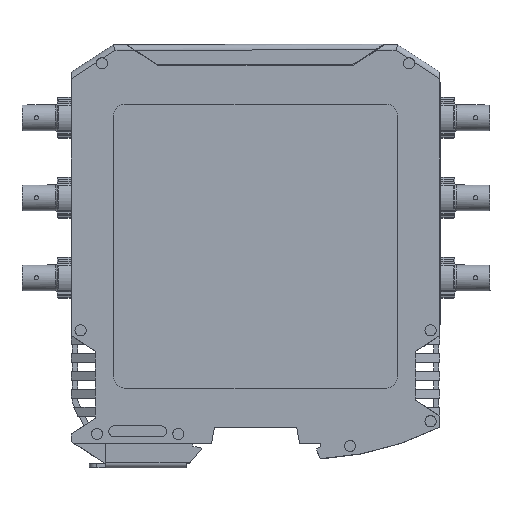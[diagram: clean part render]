
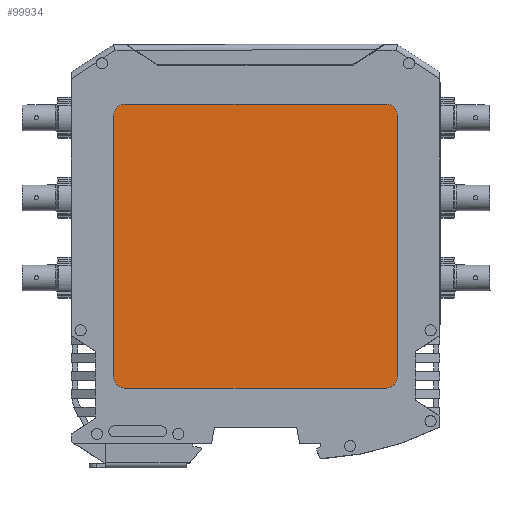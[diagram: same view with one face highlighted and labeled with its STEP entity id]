
A CAD part, top view. The second image highlights one B-rep face of the part: STEP entity #99934.
In plain terms, the highlighted planar face has unit normal (0, 0, 1).
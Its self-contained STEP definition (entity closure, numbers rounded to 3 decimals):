
#3363 = AXIS2_PLACEMENT_3D ( 'NONE', #114892, #7422, #132922 ) ;
#6755 = DIRECTION ( 'NONE',  ( -1., 0., 0. ) ) ;
#7422 = DIRECTION ( 'NONE',  ( 0., 0., 1. ) ) ;
#11096 = AXIS2_PLACEMENT_3D ( 'NONE', #84467, #209855, #102453 ) ;
#13148 = VERTEX_POINT ( 'NONE', #220551 ) ;
#14092 = FACE_OUTER_BOUND ( 'NONE', #188374, .T. ) ;
#17000 = CIRCLE ( 'NONE', #156917, 3. ) ;
#26760 = CIRCLE ( 'NONE', #166505, 3. ) ;
#32117 = CARTESIAN_POINT ( 'NONE',  ( -38.1, 95.521, 14.1 ) ) ;
#34280 = VECTOR ( 'NONE', #86154, 1000. ) ;
#36644 = LINE ( 'NONE', #61894, #84329 ) ;
#37296 = DIRECTION ( 'NONE',  ( 0., 0., -1. ) ) ;
#37347 = ORIENTED_EDGE ( 'NONE', *, *, #145856, .T. ) ;
#42806 = PLANE ( 'NONE',  #3363 ) ;
#45331 = CARTESIAN_POINT ( 'NONE',  ( -38.1, 25.321, 14.1 ) ) ;
#53206 = EDGE_CURVE ( 'NONE', #148381, #74301, #36644, .T. ) ;
#55869 = CARTESIAN_POINT ( 'NONE',  ( 38.1, 95.521, 14.1 ) ) ;
#61894 = CARTESIAN_POINT ( 'NONE',  ( -35.1, 22.321, 14.1 ) ) ;
#66616 = DIRECTION ( 'NONE',  ( 0., 0., -1. ) ) ;
#71998 = EDGE_CURVE ( 'NONE', #13148, #74301, #191488, .T. ) ;
#73001 = VERTEX_POINT ( 'NONE', #163774 ) ;
#74301 = VERTEX_POINT ( 'NONE', #200109 ) ;
#74642 = CARTESIAN_POINT ( 'NONE',  ( -35.1, 25.321, 14.1 ) ) ;
#81965 = LINE ( 'NONE', #32117, #34280 ) ;
#82093 = ORIENTED_EDGE ( 'NONE', *, *, #189148, .F. ) ;
#84329 = VECTOR ( 'NONE', #169152, 1000. ) ;
#84467 = CARTESIAN_POINT ( 'NONE',  ( 35.1, 25.321, 14.1 ) ) ;
#86154 = DIRECTION ( 'NONE',  ( 0., -1., 0. ) ) ;
#87935 = VERTEX_POINT ( 'NONE', #155053 ) ;
#92637 = DIRECTION ( 'NONE',  ( -1., 0., 0. ) ) ;
#93683 = CARTESIAN_POINT ( 'NONE',  ( 38.1, 95.521, 14.1 ) ) ;
#93741 = EDGE_CURVE ( 'NONE', #215627, #183195, #17000, .T. ) ;
#98255 = VERTEX_POINT ( 'NONE', #45331 ) ;
#99934 = ADVANCED_FACE ( 'NONE', ( #14092 ), #42806, .T. ) ;
#101561 = ORIENTED_EDGE ( 'NONE', *, *, #124099, .T. ) ;
#101942 = LINE ( 'NONE', #149484, #144029 ) ;
#102453 = DIRECTION ( 'NONE',  ( -1., 0., 0. ) ) ;
#112394 = EDGE_CURVE ( 'NONE', #148381, #98255, #26760, .T. ) ;
#114892 = CARTESIAN_POINT ( 'NONE',  ( -35.1, 95.521, 14.1 ) ) ;
#117251 = ORIENTED_EDGE ( 'NONE', *, *, #53206, .T. ) ;
#124099 = EDGE_CURVE ( 'NONE', #13148, #183195, #192059, .T. ) ;
#125354 = ORIENTED_EDGE ( 'NONE', *, *, #229352, .T. ) ;
#127967 = ORIENTED_EDGE ( 'NONE', *, *, #112394, .F. ) ;
#132922 = DIRECTION ( 'NONE',  ( 1., 0., 0. ) ) ;
#144029 = VECTOR ( 'NONE', #6755, 1000. ) ;
#144417 = VECTOR ( 'NONE', #165752, 1000. ) ;
#144622 = CARTESIAN_POINT ( 'NONE',  ( 35.1, 95.521, 14.1 ) ) ;
#145856 = EDGE_CURVE ( 'NONE', #215627, #73001, #101942, .T. ) ;
#145970 = ORIENTED_EDGE ( 'NONE', *, *, #93741, .F. ) ;
#148381 = VERTEX_POINT ( 'NONE', #169410 ) ;
#149484 = CARTESIAN_POINT ( 'NONE',  ( -35.1, 98.521, 14.1 ) ) ;
#155053 = CARTESIAN_POINT ( 'NONE',  ( -38.1, 95.521, 14.1 ) ) ;
#156917 = AXIS2_PLACEMENT_3D ( 'NONE', #144622, #37296, #162634 ) ;
#162634 = DIRECTION ( 'NONE',  ( -1., 0., 0. ) ) ;
#163774 = CARTESIAN_POINT ( 'NONE',  ( -35.1, 98.521, 14.1 ) ) ;
#165752 = DIRECTION ( 'NONE',  ( 0., 1., 0. ) ) ;
#166505 = AXIS2_PLACEMENT_3D ( 'NONE', #74642, #199960, #92637 ) ;
#169152 = DIRECTION ( 'NONE',  ( 1., 0., 0. ) ) ;
#169410 = CARTESIAN_POINT ( 'NONE',  ( -35.1, 22.321, 14.1 ) ) ;
#173832 = CARTESIAN_POINT ( 'NONE',  ( -35.1, 95.521, 14.1 ) ) ;
#183195 = VERTEX_POINT ( 'NONE', #55869 ) ;
#186362 = CARTESIAN_POINT ( 'NONE',  ( 35.1, 98.521, 14.1 ) ) ;
#188374 = EDGE_LOOP ( 'NONE', ( #228104, #101561, #145970, #37347, #82093, #125354, #127967, #117251 ) ) ;
#189148 = EDGE_CURVE ( 'NONE', #87935, #73001, #227186, .T. ) ;
#191488 = CIRCLE ( 'NONE', #11096, 3. ) ;
#191930 = DIRECTION ( 'NONE',  ( -1., 0., 0. ) ) ;
#192059 = LINE ( 'NONE', #93683, #144417 ) ;
#199960 = DIRECTION ( 'NONE',  ( 0., 0., -1. ) ) ;
#200109 = CARTESIAN_POINT ( 'NONE',  ( 35.1, 22.321, 14.1 ) ) ;
#201442 = AXIS2_PLACEMENT_3D ( 'NONE', #173832, #66616, #191930 ) ;
#209855 = DIRECTION ( 'NONE',  ( 0., 0., -1. ) ) ;
#215627 = VERTEX_POINT ( 'NONE', #186362 ) ;
#220551 = CARTESIAN_POINT ( 'NONE',  ( 38.1, 25.321, 14.1 ) ) ;
#227186 = CIRCLE ( 'NONE', #201442, 3. ) ;
#228104 = ORIENTED_EDGE ( 'NONE', *, *, #71998, .F. ) ;
#229352 = EDGE_CURVE ( 'NONE', #87935, #98255, #81965, .T. ) ;
